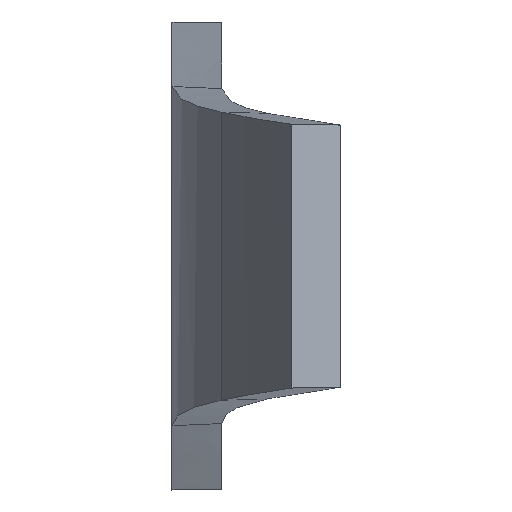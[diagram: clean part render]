
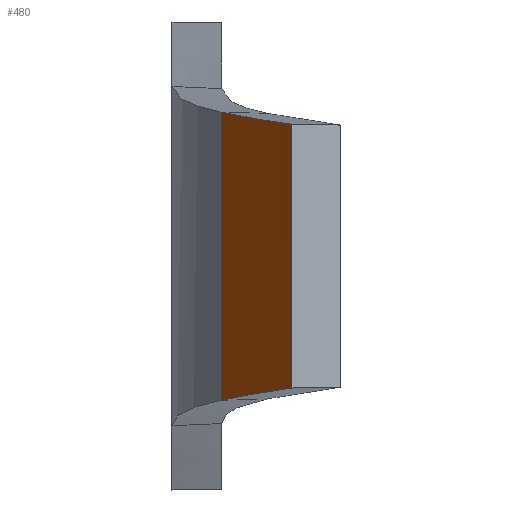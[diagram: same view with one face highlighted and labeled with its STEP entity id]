
A CAD part, left-side view. The second image highlights one B-rep face of the part: STEP entity #480.
In plain terms, the highlighted cylindrical face has radius 1577.46 mm (diameter 3154.93 mm), a partial arc.
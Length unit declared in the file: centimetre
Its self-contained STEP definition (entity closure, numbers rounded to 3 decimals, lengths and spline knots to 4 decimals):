
#51=FACE_OUTER_BOUND('',#81,.T.);
#81=EDGE_LOOP('',(#354,#355,#356,#357,#358,#359,#360));
#113=CIRCLE('',#523,85.8772);
#127=LINE('',#811,#152);
#128=LINE('',#826,#153);
#152=VECTOR('',#594,1.);
#153=VECTOR('',#595,1.);
#175=B_SPLINE_CURVE_WITH_KNOTS('',3,(#800,#801,#802,#803,#804,#805),
 .UNSPECIFIED.,.F.,.F.,(4,2,4),(1.2283,1.2535,2.0014),
 .UNSPECIFIED.);
#176=B_SPLINE_CURVE_WITH_KNOTS('',3,(#807,#808,#809,#810),.UNSPECIFIED.,
 .F.,.F.,(4,4),(-1.232,0.),.UNSPECIFIED.);
#177=B_SPLINE_CURVE_WITH_KNOTS('',3,(#813,#814,#815,#816,#817,#818),
 .UNSPECIFIED.,.F.,.F.,(4,2,4),(0.6504,0.9898,1.2118),
 .UNSPECIFIED.);
#178=B_SPLINE_CURVE_WITH_KNOTS('',3,(#820,#821,#822,#823,#824,#825),
 .UNSPECIFIED.,.F.,.F.,(4,2,4),(-2.077,-1.4177,-1.3714),
 .UNSPECIFIED.);
#217=VERTEX_POINT('',#781);
#218=VERTEX_POINT('',#782);
#219=VERTEX_POINT('',#798);
#220=VERTEX_POINT('',#799);
#221=VERTEX_POINT('',#806);
#222=VERTEX_POINT('',#812);
#223=VERTEX_POINT('',#819);
#270=EDGE_CURVE('',#217,#218,#113,.T.);
#271=EDGE_CURVE('',#219,#220,#175,.T.);
#272=EDGE_CURVE('',#221,#219,#176,.T.);
#273=EDGE_CURVE('',#221,#218,#127,.T.);
#274=EDGE_CURVE('',#222,#217,#177,.T.);
#275=EDGE_CURVE('',#223,#222,#178,.T.);
#276=EDGE_CURVE('',#220,#223,#128,.T.);
#354=ORIENTED_EDGE('',*,*,#271,.F.);
#355=ORIENTED_EDGE('',*,*,#272,.F.);
#356=ORIENTED_EDGE('',*,*,#273,.T.);
#357=ORIENTED_EDGE('',*,*,#270,.F.);
#358=ORIENTED_EDGE('',*,*,#274,.F.);
#359=ORIENTED_EDGE('',*,*,#275,.F.);
#360=ORIENTED_EDGE('',*,*,#276,.F.);
#467=CYLINDRICAL_SURFACE('',#524,157.7463);
#480=ADVANCED_FACE('',(#51),#467,.T.);
#523=AXIS2_PLACEMENT_3D('',#796,#590,#591);
#524=AXIS2_PLACEMENT_3D('',#797,#592,#593);
#590=DIRECTION('center_axis',(-0.264,0.797,0.543));
#591=DIRECTION('ref_axis',(-0.126,0.53,-0.839));
#592=DIRECTION('center_axis',(0.,0.,-1.));
#593=DIRECTION('ref_axis',(-0.269,0.963,0.));
#594=DIRECTION('',(0.,0.,1.));
#595=DIRECTION('',(0.,0.,1.));
#781=CARTESIAN_POINT('',(-13.555,3.6634,1.0868));
#782=CARTESIAN_POINT('',(-14.3028,3.439,1.0531));
#796=CARTESIAN_POINT('Origin',(-3.4935,-42.0348,73.0961));
#797=CARTESIAN_POINT('Origin',(31.4185,-147.5361,0.002));
#798=CARTESIAN_POINT('',(-13.1281,3.7897,-1.1165));
#799=CARTESIAN_POINT('',(-12.384,4.0067,-1.1591));
#800=CARTESIAN_POINT('Ctrl Pts',(-13.1281,3.7897,-1.1165));
#801=CARTESIAN_POINT('Ctrl Pts',(-13.1201,3.792,-1.117));
#802=CARTESIAN_POINT('Ctrl Pts',(-13.1121,3.7944,-1.1174));
#803=CARTESIAN_POINT('Ctrl Pts',(-12.8661,3.8668,-1.1305));
#804=CARTESIAN_POINT('Ctrl Pts',(-12.6678,3.9247,-1.1418));
#805=CARTESIAN_POINT('Ctrl Pts',(-12.384,4.0067,-1.1591));
#806=CARTESIAN_POINT('',(-14.3025,3.439,-1.0612));
#807=CARTESIAN_POINT('Ctrl Pts',(-14.3025,3.439,-1.0612));
#808=CARTESIAN_POINT('Ctrl Pts',(-13.9112,3.5575,-1.0772));
#809=CARTESIAN_POINT('Ctrl Pts',(-13.5215,3.6739,-1.0956));
#810=CARTESIAN_POINT('Ctrl Pts',(-13.1281,3.7897,-1.1165));
#811=CARTESIAN_POINT('',(-14.3026,3.439,-0.0038));
#812=CARTESIAN_POINT('',(-13.0163,3.8226,1.1148));
#813=CARTESIAN_POINT('Ctrl Pts',(-13.0163,3.8226,1.1148));
#814=CARTESIAN_POINT('Ctrl Pts',(-13.1265,3.7903,1.1088));
#815=CARTESIAN_POINT('Ctrl Pts',(-13.2361,3.758,1.1029));
#816=CARTESIAN_POINT('Ctrl Pts',(-13.4148,3.7051,1.0938));
#817=CARTESIAN_POINT('Ctrl Pts',(-13.4845,3.6844,1.0903));
#818=CARTESIAN_POINT('Ctrl Pts',(-13.555,3.6634,1.0868));
#819=CARTESIAN_POINT('',(-12.3843,4.0067,1.1515));
#820=CARTESIAN_POINT('Ctrl Pts',(-12.3843,4.0067,1.1515));
#821=CARTESIAN_POINT('Ctrl Pts',(-12.5805,3.95,1.1395));
#822=CARTESIAN_POINT('Ctrl Pts',(-12.7794,3.8921,1.1279));
#823=CARTESIAN_POINT('Ctrl Pts',(-12.9888,3.8307,1.1163));
#824=CARTESIAN_POINT('Ctrl Pts',(-13.0026,3.8267,1.1156));
#825=CARTESIAN_POINT('Ctrl Pts',(-13.0163,3.8226,1.1148));
#826=CARTESIAN_POINT('',(-12.3842,4.0067,-0.0038));
